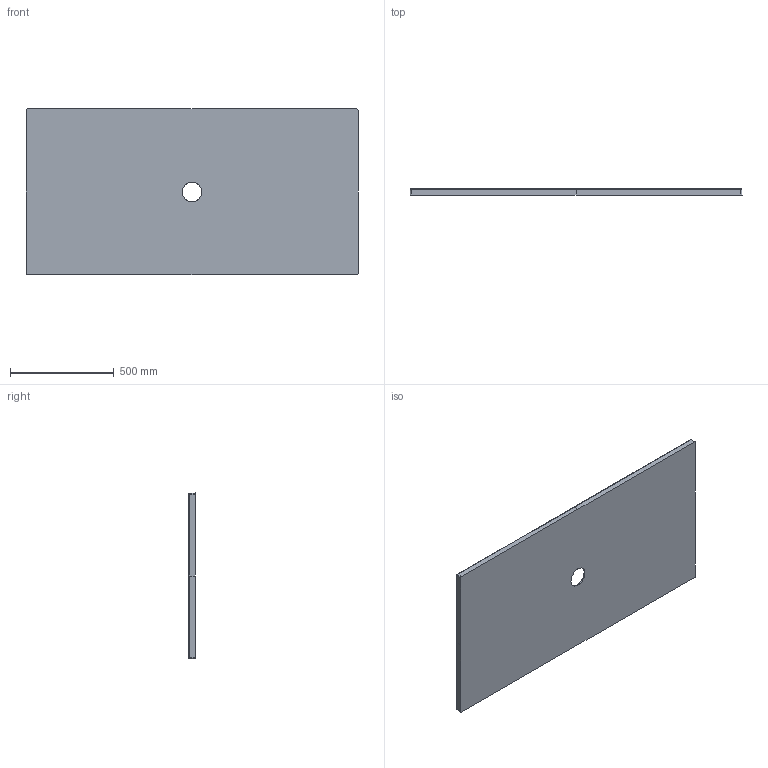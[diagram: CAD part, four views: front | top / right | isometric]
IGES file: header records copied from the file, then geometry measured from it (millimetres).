
Start section: START RECORD GO HERE.
Global section: file name: 1053_PD 160 X80 H3 LISCIO.igs; native system: DASSAULT SYSTEMES CATIA V5 R19 - www.3ds.com; preprocessor: CATIA Version 5 Release 19 SP 5 ; author: gioge; organization: LAPTOP-G94B6G74; date: 20200622.105755; units: millimetre
Bounding box: 1600 x 30.5 x 800 mm (x, y, z)
Surface area: 2681415.2 mm2 (no closed solid volume)
Topology: 0 solids, 0 shells, 87 faces, 408 edges, 404 vertices
Faces by surface type: bspline 56, revolution 24, extrusion 4, plane 3
